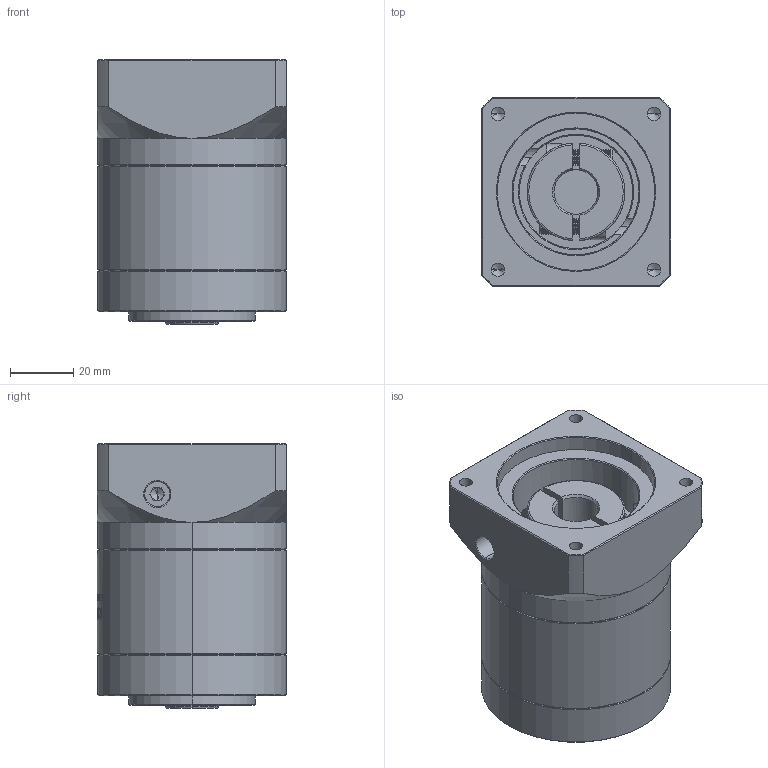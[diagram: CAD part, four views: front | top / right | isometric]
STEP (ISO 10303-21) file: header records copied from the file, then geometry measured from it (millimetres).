
FILE_DESCRIPTION (( 'STEP AP214' ), '1' );
FILE_NAME ('ZE60-K10-L1-14-50-70-M5.STEP', '2022-04-17T15:31:21', ( '' ), ( 'Microsoft' ), 'SwSTEP 2.0', 'SolidWorks 2016', '' );
FILE_SCHEMA (( 'AUTOMOTIVE_DESIGN' ));
Length unit declared in the file: millimetre
Products named in the file (1): ZE60-K10-L1-14-50-70-M5
Bounding box: 60 x 60 x 84 mm (x, y, z)
Volume: 205961.2 mm3; surface area: 41356.5 mm2
Topology: 6 solids, 6 shells, 1533 faces, 4157 edges, 2695 vertices
Faces by surface type: plane 717, cylinder 292, bspline 292, cone 214, torus 18
Entity records: 84176 total; most frequent: CARTESIAN_POINT 32111, ORIENTED_EDGE 8274, DIRECTION 6091, EDGE_CURVE 4137, VERTEX_POINT 2695, VECTOR 2143, LINE 2143, AXIS2_PLACEMENT_3D 1974
